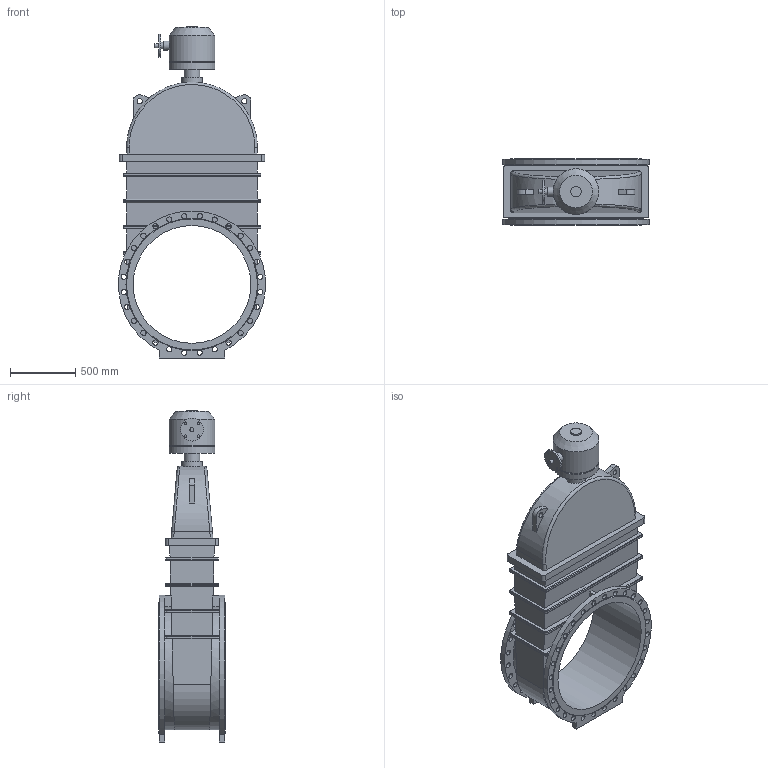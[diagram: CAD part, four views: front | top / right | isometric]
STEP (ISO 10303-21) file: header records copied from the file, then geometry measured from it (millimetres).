
FILE_DESCRIPTION(('STEP AP203'), '1');
FILE_NAME('Çàäâèæêà 47GV.Z DN900 PN16 + ðåäóêòîð ñ âõîäíûì ôëàíöåì', '', ('UNSPECIFIED'), ('UNSPECIFIED'), 'ASCON STEP Converter 1.6', 'ASCON Math Kernel', '');
FILE_SCHEMA(('CONFIG_CONTROL_DESIGN'));
Length unit declared in the file: millimetre
Bounding box: 1122.05 x 510 x 2537.5 mm (x, y, z)
Volume: 452897584.2 mm3; surface area: 8933164.2 mm2
Topology: 1 solids, 1 shells, 289 faces, 724 edges, 459 vertices
Faces by surface type: cylinder 146, plane 106, bspline 34, cone 3
Full cylindrical faces by diameter (mm): 18 x4, 40 x58, 50 x1, 70 x1, 80 x1, 120 x1, 160 x1, 175 x1, 330 x1, 350 x2, 900 x1
Entity records: 14597 total; most frequent: CARTESIAN_POINT 5609, ORIENTED_EDGE 1298, DIRECTION 1286, EDGE_CURVE 649, EDGE_LOOP 512, AXIS2_PLACEMENT_3D 495, VERTEX_POINT 459, FACE_BOUND 362
